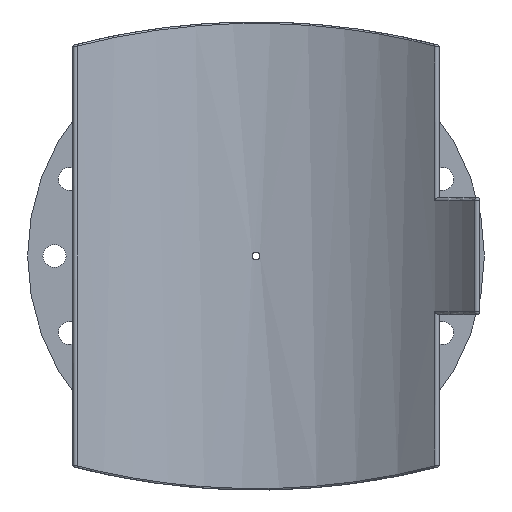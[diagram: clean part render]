
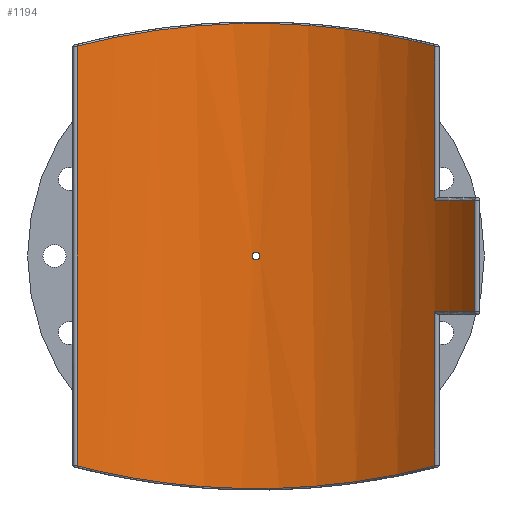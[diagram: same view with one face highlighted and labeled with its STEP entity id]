
A CAD part, front view. The second image highlights one B-rep face of the part: STEP entity #1194.
In plain terms, the highlighted cylindrical face has radius 355 mm (diameter 710 mm), a partial arc.
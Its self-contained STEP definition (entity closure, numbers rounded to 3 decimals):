
#72=CIRCLE('',#1287,355.);
#73=CIRCLE('',#1288,355.);
#160=LINE('',#2810,#190);
#161=LINE('',#2826,#191);
#162=LINE('',#2828,#192);
#163=LINE('',#2832,#193);
#190=VECTOR('',#1497,200.911);
#191=VECTOR('',#1502,547.222);
#192=VECTOR('',#1503,200.911);
#193=VECTOR('',#1506,145.4);
#205=FACE_BOUND('',#388,.T.);
#300=FACE_OUTER_BOUND('',#387,.T.);
#387=EDGE_LOOP('',(#935,#936,#937,#938,#939,#940,#941,#942));
#388=EDGE_LOOP('',(#943));
#522=B_SPLINE_CURVE_WITH_KNOTS('',3,(#2209,#2210,#2211,#2212,#2213,#2214,
#2215,#2216,#2217,#2218),.UNSPECIFIED.,.F.,.F.,(4,1,1,1,1,1,1,4),(-51.44,
-44.092,-36.743,-29.395,-22.046,
-14.697,-7.349,0.),.UNSPECIFIED.);
#537=B_SPLINE_CURVE_WITH_KNOTS('',3,(#2604,#2605,#2606,#2607,#2608,#2609,
#2610,#2611,#2612,#2613),.UNSPECIFIED.,.F.,.F.,(4,1,1,1,1,1,1,4),(-51.44,
-44.092,-36.743,-29.395,-22.046,
-14.697,-7.349,0.),.UNSPECIFIED.);
#547=B_SPLINE_CURVE_WITH_KNOTS('',3,(#2835,#2836,#2837,#2838,#2839,#2840,
#2841,#2842,#2843,#2844,#2845,#2846,#2847,#2848,#2849,#2850,#2851,#2852,
#2853,#2854,#2855,#2856,#2857,#2858,#2859,#2860,#2861,#2862,#2863,#2864,
#2865,#2866,#2867,#2868),.UNSPECIFIED.,.T.,.F.,(4,2,2,2,2,2,2,2,2,2,2,2,
2,2,2,2,4),(0.,0.196,0.392,0.588,0.784,
0.979,1.175,1.371,1.567,1.763,
1.959,2.155,2.351,2.546,2.742,
2.938,3.134),.UNSPECIFIED.);
#567=VERTEX_POINT('',#2130);
#569=VERTEX_POINT('',#2207);
#585=VERTEX_POINT('',#2525);
#587=VERTEX_POINT('',#2602);
#596=VERTEX_POINT('',#2809);
#598=VERTEX_POINT('',#2827);
#599=VERTEX_POINT('',#2829);
#600=VERTEX_POINT('',#2831);
#601=VERTEX_POINT('',#2834);
#682=EDGE_CURVE('',#569,#567,#522,.T.);
#714=EDGE_CURVE('',#587,#585,#537,.T.);
#731=EDGE_CURVE('',#567,#596,#160,.T.);
#734=EDGE_CURVE('',#585,#569,#161,.T.);
#735=EDGE_CURVE('',#598,#587,#162,.T.);
#736=EDGE_CURVE('',#599,#598,#72,.T.);
#737=EDGE_CURVE('',#600,#599,#163,.T.);
#738=EDGE_CURVE('',#596,#600,#73,.T.);
#739=EDGE_CURVE('',#601,#601,#547,.T.);
#935=ORIENTED_EDGE('',*,*,#682,.F.);
#936=ORIENTED_EDGE('',*,*,#734,.F.);
#937=ORIENTED_EDGE('',*,*,#714,.F.);
#938=ORIENTED_EDGE('',*,*,#735,.F.);
#939=ORIENTED_EDGE('',*,*,#736,.F.);
#940=ORIENTED_EDGE('',*,*,#737,.F.);
#941=ORIENTED_EDGE('',*,*,#738,.F.);
#942=ORIENTED_EDGE('',*,*,#731,.F.);
#943=ORIENTED_EDGE('',*,*,#739,.T.);
#1135=CYLINDRICAL_SURFACE('',#1286,355.);
#1194=ADVANCED_FACE('',(#300,#205),#1135,.F.);
#1286=AXIS2_PLACEMENT_3D('',#2825,#1500,#1501);
#1287=AXIS2_PLACEMENT_3D('',#2830,#1504,#1505);
#1288=AXIS2_PLACEMENT_3D('',#2833,#1507,#1508);
#1497=DIRECTION('',(0.,0.,-1.));
#1500=DIRECTION('center_axis',(0.,0.,1.));
#1501=DIRECTION('ref_axis',(-1.,0.,0.));
#1502=DIRECTION('',(0.,0.,1.));
#1503=DIRECTION('',(0.,0.,-1.));
#1504=DIRECTION('center_axis',(0.,0.,1.));
#1505=DIRECTION('ref_axis',(0.751,0.66,0.));
#1506=DIRECTION('',(0.,0.,-1.));
#1507=DIRECTION('center_axis',(0.,0.,-1.));
#1508=DIRECTION('ref_axis',(0.751,0.66,0.));
#2130=CARTESIAN_POINT('',(232.624,268.163,273.611));
#2207=CARTESIAN_POINT('',(-232.624,268.163,273.611));
#2209=CARTESIAN_POINT('Ctrl Pts',(-232.624,268.163,273.611));
#2210=CARTESIAN_POINT('Ctrl Pts',(-214.557,283.835,278.249));
#2211=CARTESIAN_POINT('Ctrl Pts',(-175.201,311.567,287.194));
#2212=CARTESIAN_POINT('Ctrl Pts',(-108.498,340.628,297.569));
#2213=CARTESIAN_POINT('Ctrl Pts',(-36.761,355.622,303.234));
#2214=CARTESIAN_POINT('Ctrl Pts',(36.764,355.624,303.236));
#2215=CARTESIAN_POINT('Ctrl Pts',(108.502,340.624,297.567));
#2216=CARTESIAN_POINT('Ctrl Pts',(175.199,311.568,287.195));
#2217=CARTESIAN_POINT('Ctrl Pts',(214.557,283.835,278.249));
#2218=CARTESIAN_POINT('Ctrl Pts',(232.624,268.163,273.611));
#2525=CARTESIAN_POINT('',(-232.624,268.163,-273.611));
#2602=CARTESIAN_POINT('',(232.624,268.163,-273.611));
#2604=CARTESIAN_POINT('Ctrl Pts',(232.624,268.163,-273.611));
#2605=CARTESIAN_POINT('Ctrl Pts',(214.557,283.835,-278.249));
#2606=CARTESIAN_POINT('Ctrl Pts',(175.201,311.567,-287.194));
#2607=CARTESIAN_POINT('Ctrl Pts',(108.498,340.628,-297.569));
#2608=CARTESIAN_POINT('Ctrl Pts',(36.761,355.622,-303.234));
#2609=CARTESIAN_POINT('Ctrl Pts',(-36.764,355.624,-303.235));
#2610=CARTESIAN_POINT('Ctrl Pts',(-108.503,340.624,-297.567));
#2611=CARTESIAN_POINT('Ctrl Pts',(-175.199,311.568,-287.195));
#2612=CARTESIAN_POINT('Ctrl Pts',(-214.557,283.835,-278.249));
#2613=CARTESIAN_POINT('Ctrl Pts',(-232.624,268.163,-273.611));
#2809=CARTESIAN_POINT('',(232.624,268.163,72.7));
#2810=CARTESIAN_POINT('',(232.624,268.163,0.));
#2825=CARTESIAN_POINT('Origin',(0.,0.,0.));
#2826=CARTESIAN_POINT('',(-232.624,268.163,0.));
#2827=CARTESIAN_POINT('',(232.624,268.163,-72.7));
#2828=CARTESIAN_POINT('',(232.624,268.163,0.));
#2829=CARTESIAN_POINT('',(285.099,211.527,-72.7));
#2830=CARTESIAN_POINT('Origin',(0.,0.,-72.7));
#2831=CARTESIAN_POINT('',(285.099,211.527,72.7));
#2832=CARTESIAN_POINT('',(285.099,211.527,0.));
#2833=CARTESIAN_POINT('Origin',(0.,0.,72.7));
#2834=CARTESIAN_POINT('',(5.2,354.962,0.));
#2835=CARTESIAN_POINT('Ctrl Pts',(5.2,354.962,0.));
#2836=CARTESIAN_POINT('Ctrl Pts',(5.2,354.962,-0.653));
#2837=CARTESIAN_POINT('Ctrl Pts',(5.07,354.964,-1.349));
#2838=CARTESIAN_POINT('Ctrl Pts',(4.539,354.971,-2.631));
#2839=CARTESIAN_POINT('Ctrl Pts',(4.139,354.976,-3.215));
#2840=CARTESIAN_POINT('Ctrl Pts',(3.215,354.986,-4.139));
#2841=CARTESIAN_POINT('Ctrl Pts',(2.631,354.991,-4.539));
#2842=CARTESIAN_POINT('Ctrl Pts',(1.349,354.998,-5.07));
#2843=CARTESIAN_POINT('Ctrl Pts',(0.653,355.,-5.2));
#2844=CARTESIAN_POINT('Ctrl Pts',(-0.653,355.,-5.2));
#2845=CARTESIAN_POINT('Ctrl Pts',(-1.349,354.998,-5.07));
#2846=CARTESIAN_POINT('Ctrl Pts',(-2.631,354.991,-4.539));
#2847=CARTESIAN_POINT('Ctrl Pts',(-3.215,354.986,-4.139));
#2848=CARTESIAN_POINT('Ctrl Pts',(-4.139,354.976,-3.215));
#2849=CARTESIAN_POINT('Ctrl Pts',(-4.539,354.971,-2.631));
#2850=CARTESIAN_POINT('Ctrl Pts',(-5.07,354.964,-1.349));
#2851=CARTESIAN_POINT('Ctrl Pts',(-5.2,354.962,-0.653));
#2852=CARTESIAN_POINT('Ctrl Pts',(-5.2,354.962,0.653));
#2853=CARTESIAN_POINT('Ctrl Pts',(-5.07,354.964,1.349));
#2854=CARTESIAN_POINT('Ctrl Pts',(-4.539,354.971,2.631));
#2855=CARTESIAN_POINT('Ctrl Pts',(-4.139,354.976,3.215));
#2856=CARTESIAN_POINT('Ctrl Pts',(-3.215,354.986,4.139));
#2857=CARTESIAN_POINT('Ctrl Pts',(-2.631,354.991,4.539));
#2858=CARTESIAN_POINT('Ctrl Pts',(-1.349,354.998,5.07));
#2859=CARTESIAN_POINT('Ctrl Pts',(-0.653,355.,5.2));
#2860=CARTESIAN_POINT('Ctrl Pts',(0.653,355.,5.2));
#2861=CARTESIAN_POINT('Ctrl Pts',(1.349,354.998,5.07));
#2862=CARTESIAN_POINT('Ctrl Pts',(2.631,354.991,4.539));
#2863=CARTESIAN_POINT('Ctrl Pts',(3.215,354.986,4.139));
#2864=CARTESIAN_POINT('Ctrl Pts',(4.139,354.976,3.215));
#2865=CARTESIAN_POINT('Ctrl Pts',(4.539,354.971,2.631));
#2866=CARTESIAN_POINT('Ctrl Pts',(5.07,354.964,1.349));
#2867=CARTESIAN_POINT('Ctrl Pts',(5.2,354.962,0.653));
#2868=CARTESIAN_POINT('Ctrl Pts',(5.2,354.962,0.));
